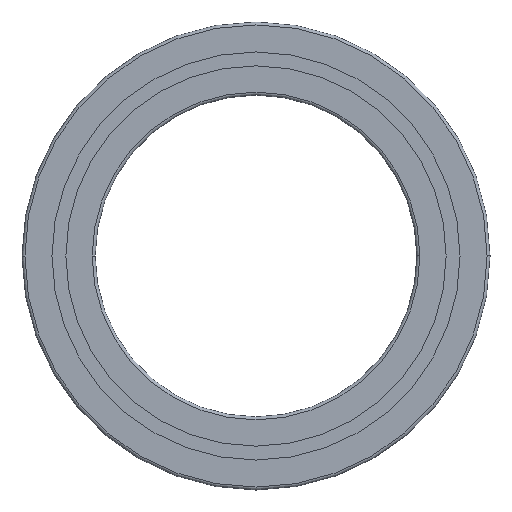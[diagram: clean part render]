
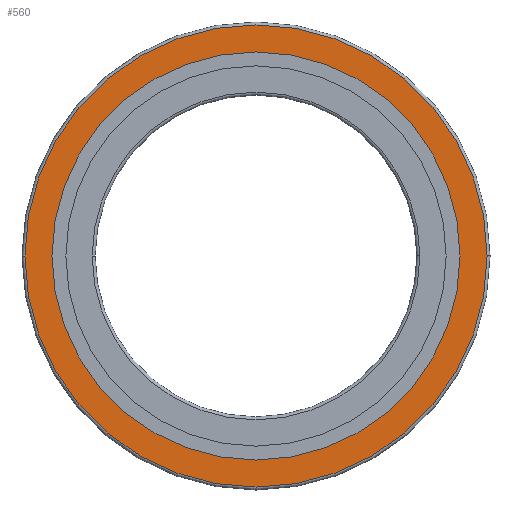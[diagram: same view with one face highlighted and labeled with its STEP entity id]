
A CAD part, front view. The second image highlights one B-rep face of the part: STEP entity #560.
In plain terms, the highlighted planar face has unit normal (0, -1, 0).
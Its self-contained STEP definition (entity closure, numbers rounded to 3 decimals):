
#456=CARTESIAN_POINT('POINT29',(69.75,0.,
   0.));
#457=VERTEX_POINT('VERTEX29',#456);
#464=CARTESIAN_POINT('POINT30',(-69.75,0.,
   0.));
#465=VERTEX_POINT('VERTEX30',#464);
#466=CARTESIAN_POINT('POS45',(0.,0.,0.));
#467=DIRECTION('DIR78',(0.,1.,0.));
#468=DIRECTION('DIR79',(1.,0.,0.));
#469=AXIS2_PLACEMENT_3D('AXIS34',#466,#467,#468);
#470=CIRCLE('ELLIPSE21',#469,69.75);
#471=EDGE_CURVE('EDGE44',#465,#457,#470,.T.);
#491=EDGE_CURVE('EDGE46',#457,#465,#470,.T.);
#536=CARTESIAN_POINT('POINT33',(79.,0.,
   0.));
#537=VERTEX_POINT('VERTEX33',#536);
#538=CARTESIAN_POINT('POINT34',(-79.,0.,
   0.));
#539=VERTEX_POINT('VERTEX34',#538);
#540=CARTESIAN_POINT('POS52',(0.,0.,0.));
#541=DIRECTION('DIR89',(0.,1.,0.));
#542=DIRECTION('DIR90',(1.,0.,0.));
#543=AXIS2_PLACEMENT_3D('AXIS38',#540,#541,#542);
#544=CIRCLE('ELLIPSE23',#543,79.);
#545=EDGE_CURVE('EDGE51',#537,#539,#544,.T.);
#546=ORIENTED_EDGE('COEDGE97',*,*,#545,.F.);
#547=EDGE_CURVE('EDGE52',#539,#537,#544,.T.);
#548=ORIENTED_EDGE('COEDGE98',*,*,#547,.F.);
#549=EDGE_LOOP('NONE',(#546,#548));
#550=FACE_BOUND('LOOP1',#549,.T.);
#551=ORIENTED_EDGE('COEDGE99',*,*,#491,.T.);
#552=ORIENTED_EDGE('COEDGE100',*,*,#471,.T.);
#553=EDGE_LOOP('NONE',(#551,#552));
#554=FACE_BOUND('LOOP1',#553,.T.);
#555=CARTESIAN_POINT('POS53',(74.375,0.,
   0.));
#556=DIRECTION('DIR91',(0.,-1.,0.));
#557=DIRECTION('DIR92',(1.,0.,0.));
#558=AXIS2_PLACEMENT_3D('AXIS39',#555,#556,#557);
#559=PLANE('PLANE7',#558);
#560=ADVANCED_FACE('FACE25',(#550,#554),#559,.T.);
